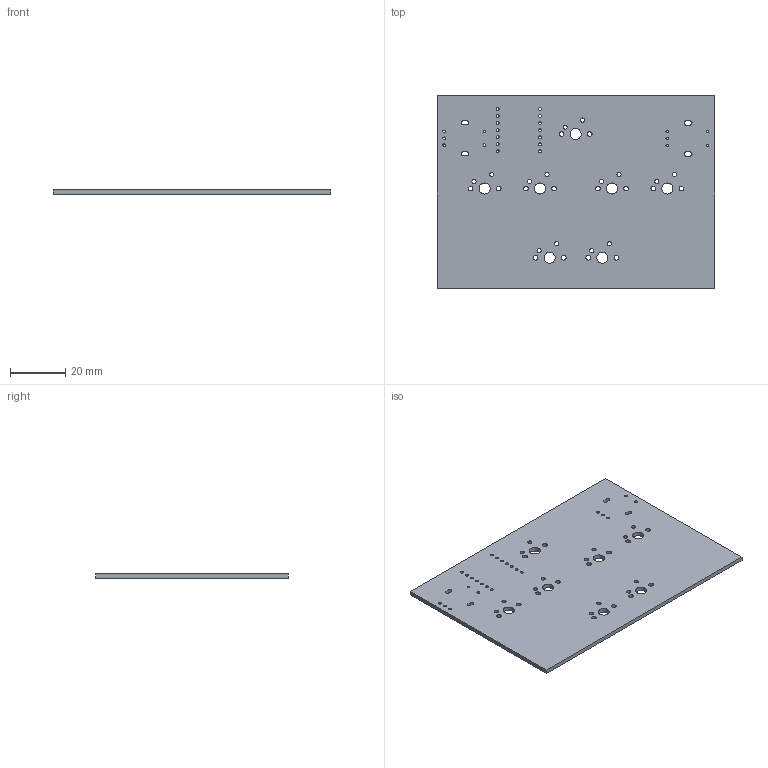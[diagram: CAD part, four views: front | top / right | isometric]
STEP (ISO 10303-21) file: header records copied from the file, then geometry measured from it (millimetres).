
FILE_DESCRIPTION(('KiCad electronic assembly'),'2;1');
FILE_NAME('Sound Voltex Macro Pad.step','2026-10-05T15:43:21',('Pcbnew') ,('Kicad'),'Open CASCADE STEP processor 7.9','KiCad to STEP converter' ,'Unknown');
FILE_SCHEMA(('AUTOMOTIVE_DESIGN { 1 0 10303 214 1 1 1 1 }'));
Length unit declared in the file: millimetre
Products named in the file (2): Sound Voltex Macro Pad 1; Sound Voltex Macro Pad_PCB
Assembly tree (1 placements, depth 2):
  Sound Voltex Macro Pad 1
    Sound Voltex Macro Pad_PCB
Bounding box: 100 x 69.5 x 1.51 mm (x, y, z)
Volume: 10225.4 mm3; surface area: 14558.9 mm2
Topology: 1 solids, 1 shells, 81 faces, 237 edges, 158 vertices
Faces by surface type: cylinder 67, plane 14
Full cylindrical faces by diameter (mm): 1 x24, 1.5 x14, 1.7 x14, 4 x7
Entity records: 3054 total; most frequent: DIRECTION 537, CARTESIAN_POINT 478, ORIENTED_EDGE 474, EDGE_CURVE 237, AXIS2_PLACEMENT_3D 217, FACE_BOUND 207, EDGE_LOOP 207, VERTEX_POINT 158
